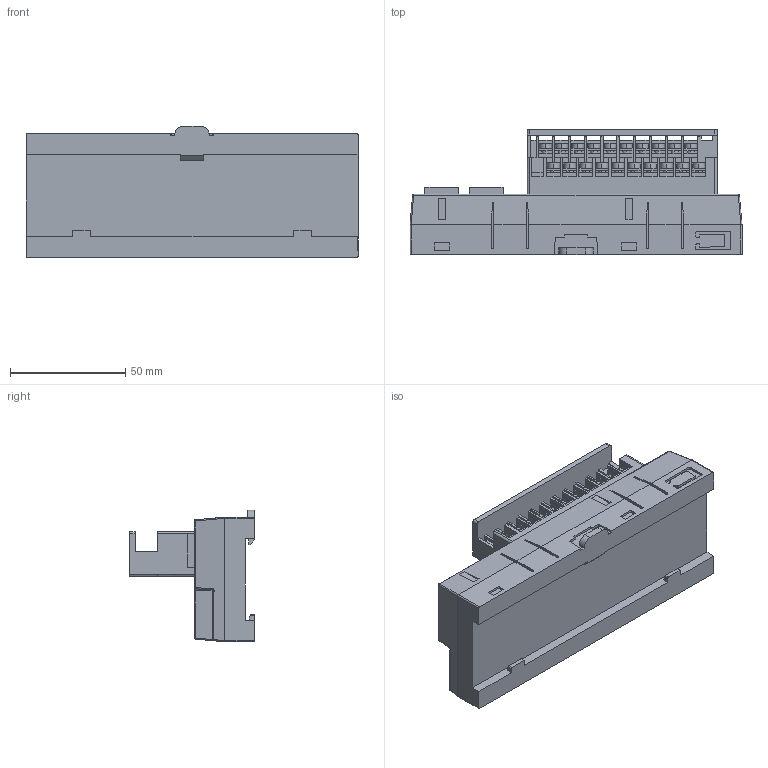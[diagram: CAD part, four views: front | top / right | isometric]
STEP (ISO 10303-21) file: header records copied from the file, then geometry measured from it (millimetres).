
FILE_DESCRIPTION (( 'STEP AP214' ), '1' );
FILE_NAME ('RG-M仩_16_200420.STEP', '2025-11-19T04:44:33', ( '' ), ( '' ), 'SwSTEP 2.0', 'SolidWorks 2022', '' );
FILE_SCHEMA (( 'AUTOMOTIVE_DESIGN' ));
Length unit declared in the file: millimetre
Products named in the file (1): RG-M□_16_200420
Bounding box: 144 x 54.3 x 57.01 mm (x, y, z)
Volume: 201011.4 mm3; surface area: 43589 mm2
Topology: 1 solids, 1 shells, 1103 faces, 3142 edges, 2054 vertices
Faces by surface type: plane 911, cylinder 120, bspline 66, sphere 6
Entity records: 36215 total; most frequent: CARTESIAN_POINT 7742, ORIENTED_EDGE 6272, DIRECTION 5368, EDGE_CURVE 3136, VECTOR 2680, LINE 2680, VERTEX_POINT 2054, AXIS2_PLACEMENT_3D 1344
